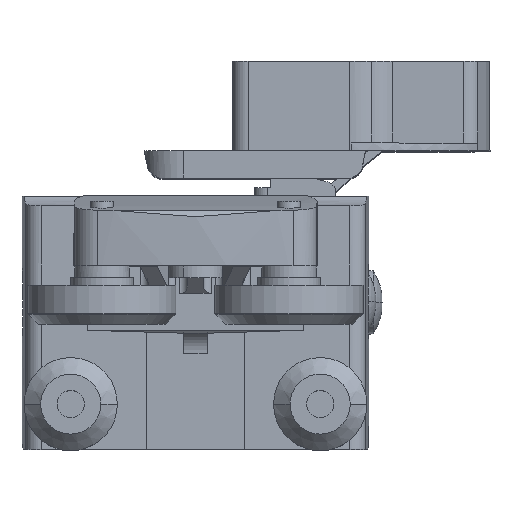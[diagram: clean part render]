
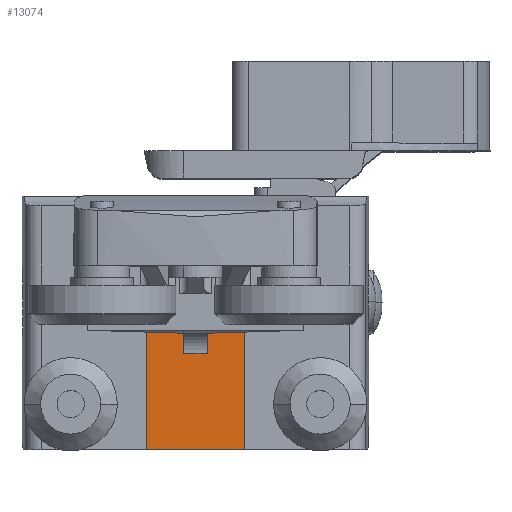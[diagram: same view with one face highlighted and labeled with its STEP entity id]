
A CAD part, top view. The second image highlights one B-rep face of the part: STEP entity #13074.
In plain terms, the highlighted planar face has unit normal (0, 0, 1).
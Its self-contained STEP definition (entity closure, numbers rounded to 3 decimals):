
#6150 = EDGE_CURVE( '', #9900, #6630, #16196, .T. );
#6630 = VERTEX_POINT( '', #16718 );
#6824 = VERTEX_POINT( '', #16930 );
#6848 = VERTEX_POINT( '', #16956 );
#7112 = EDGE_CURVE( '', #8524, #13820, #17254, .T. );
#7180 = EDGE_CURVE( '', #6824, #12990, #17327, .T. );
#7774 = EDGE_CURVE( '', #6630, #8524, #17980, .T. );
#8524 = VERTEX_POINT( '', #18805 );
#9900 = VERTEX_POINT( '', #20288 );
#10316 = EDGE_CURVE( '', #6848, #13820, #20740, .T. );
#10460 = EDGE_CURVE( '', #9900, #12990, #20897, .T. );
#12958 = EDGE_CURVE( '', #6848, #13974, #23614, .T. );
#12990 = VERTEX_POINT( '', #23649 );
#13074 = ADVANCED_FACE( '', ( #23740 ), #23741, .T. );
#13580 = EDGE_CURVE( '', #13974, #6824, #24283, .T. );
#13820 = VERTEX_POINT( '', #24541 );
#13974 = VERTEX_POINT( '', #24708 );
#16196 = LINE( '', #27616, #27617 );
#16718 = CARTESIAN_POINT( '', ( 6.25, -19., 11.6 ) );
#16930 = CARTESIAN_POINT( '', ( -1.5, 12.392, 11.6 ) );
#16956 = CARTESIAN_POINT( '', ( 1.5, -6.7, 11.6 ) );
#17254 = LINE( '', #29174, #29175 );
#17327 = LINE( '', #29276, #29277 );
#17980 = LINE( '', #30285, #30286 );
#18805 = CARTESIAN_POINT( '', ( 6.25, 12.392, 11.6 ) );
#20288 = CARTESIAN_POINT( '', ( -6.25, -19., 11.6 ) );
#20740 = LINE( '', #34686, #34687 );
#20897 = LINE( '', #34928, #34929 );
#23614 = LINE( '', #38949, #38950 );
#23649 = CARTESIAN_POINT( '', ( -6.25, 12.392, 11.6 ) );
#23740 = FACE_OUTER_BOUND( '', #39127, .T. );
#23741 = PLANE( '', #39128 );
#24283 = LINE( '', #39992, #39993 );
#24541 = CARTESIAN_POINT( '', ( 1.5, 12.392, 11.6 ) );
#24708 = CARTESIAN_POINT( '', ( -1.5, -6.7, 11.6 ) );
#27616 = CARTESIAN_POINT( '', ( 1.5, -19., 11.6 ) );
#27617 = VECTOR( '', #43613, 1. );
#29174 = CARTESIAN_POINT( '', ( 3.875, 12.392, 11.6 ) );
#29175 = VECTOR( '', #44858, 1. );
#29276 = CARTESIAN_POINT( '', ( -3.875, 12.392, 11.6 ) );
#29277 = VECTOR( '', #44949, 1. );
#30285 = CARTESIAN_POINT( '', ( 6.25, -19., 11.6 ) );
#30286 = VECTOR( '', #45710, 1. );
#34686 = CARTESIAN_POINT( '', ( 1.5, -19., 11.6 ) );
#34687 = VECTOR( '', #48713, 1. );
#34928 = CARTESIAN_POINT( '', ( -6.25, -19., 11.6 ) );
#34929 = VECTOR( '', #48858, 1. );
#38949 = CARTESIAN_POINT( '', ( 2., -6.7, 11.6 ) );
#38950 = VECTOR( '', #52006, 1. );
#39127 = EDGE_LOOP( '', ( #52173, #52174, #52175, #52176, #52177, #52178, #52179, #52180 ) );
#39128 = AXIS2_PLACEMENT_3D( '', #52181, #52182, #52183 );
#39992 = CARTESIAN_POINT( '', ( -1.5, -19., 11.6 ) );
#39993 = VECTOR( '', #52676, 1. );
#43613 = DIRECTION( '', ( 1., 0., 0. ) );
#44858 = DIRECTION( '', ( -1., 0., 0. ) );
#44949 = DIRECTION( '', ( -1., 0., 0. ) );
#45710 = DIRECTION( '', ( 0., 1., 0. ) );
#48713 = DIRECTION( '', ( 0., 1., 0. ) );
#48858 = DIRECTION( '', ( 0., 1., 0. ) );
#52006 = DIRECTION( '', ( -1., 0., 0. ) );
#52173 = ORIENTED_EDGE( '', *, *, #6150, .T. );
#52174 = ORIENTED_EDGE( '', *, *, #7774, .T. );
#52175 = ORIENTED_EDGE( '', *, *, #7112, .T. );
#52176 = ORIENTED_EDGE( '', *, *, #10316, .F. );
#52177 = ORIENTED_EDGE( '', *, *, #12958, .T. );
#52178 = ORIENTED_EDGE( '', *, *, #13580, .T. );
#52179 = ORIENTED_EDGE( '', *, *, #7180, .T. );
#52180 = ORIENTED_EDGE( '', *, *, #10460, .F. );
#52181 = CARTESIAN_POINT( '', ( -1.5, -19., 11.6 ) );
#52182 = DIRECTION( '', ( 0., 0., 1. ) );
#52183 = DIRECTION( '', ( 1., 0., 0. ) );
#52676 = DIRECTION( '', ( 0., 1., 0. ) );
